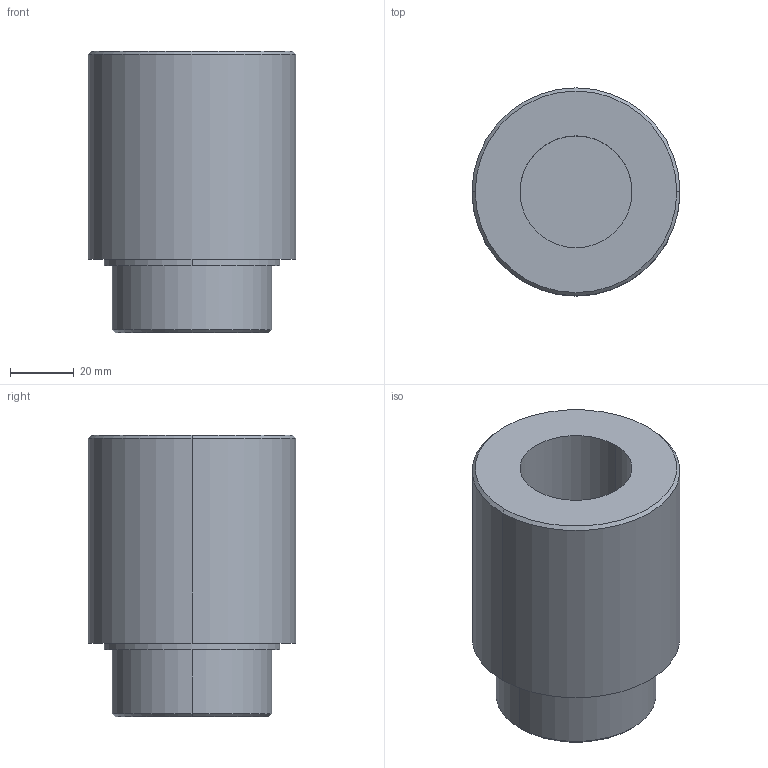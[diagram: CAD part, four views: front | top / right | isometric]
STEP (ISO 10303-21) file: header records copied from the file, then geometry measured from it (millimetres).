
FILE_DESCRIPTION((''),'2;1');
FILE_NAME('SC100','2017-04-06T',('Owner'),(''),'PRO/ENGINEER BY PARAMETRIC TECHNOLOGY CORPORATION, 2009440','PRO/ENGINEER BY PARAMETRIC TECHNOLOGY CORPORATION, 2009440','');
FILE_SCHEMA(('CONFIG_CONTROL_DESIGN'));
Length unit declared in the file: millimetre
Products named in the file (1): SC100
Bounding box: 65 x 65 x 88 mm (x, y, z)
Volume: 227822.6 mm3; surface area: 27188.3 mm2
Topology: 1 solids, 1 shells, 17 faces, 32 edges, 20 vertices
Faces by surface type: cylinder 8, plane 5, cone 4
Entity records: 472 total; most frequent: DIRECTION 86, CARTESIAN_POINT 69, ORIENTED_EDGE 64, AXIS2_PLACEMENT_3D 37, EDGE_CURVE 32, VERTEX_POINT 20, EDGE_LOOP 20, CIRCLE 20
